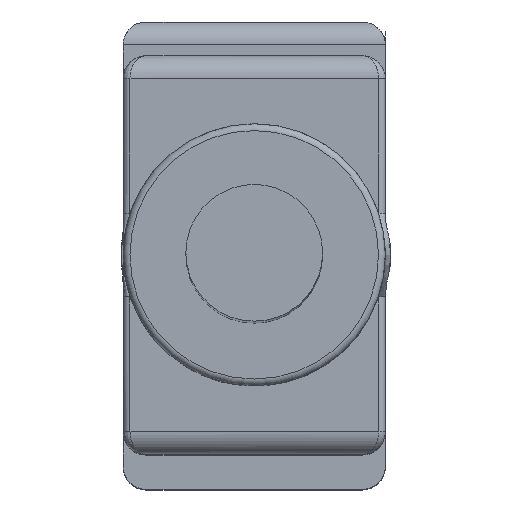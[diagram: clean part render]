
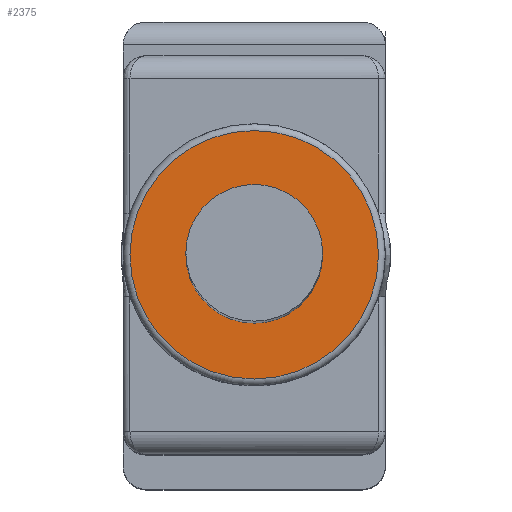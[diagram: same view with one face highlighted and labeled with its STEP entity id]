
A CAD part, top view. The second image highlights one B-rep face of the part: STEP entity #2375.
In plain terms, the highlighted planar face has unit normal (0, 0, 1).
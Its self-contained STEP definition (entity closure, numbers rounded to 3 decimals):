
#2189 = VERTEX_POINT('',#2190);
#2190 = CARTESIAN_POINT('',(5.45,0.,39.2));
#2199 = EDGE_CURVE('',#2189,#2189,#2200,.T.);
#2200 = CIRCLE('',#2201,5.45);
#2201 = AXIS2_PLACEMENT_3D('',#2202,#2203,#2204);
#2202 = CARTESIAN_POINT('',(0.,0.,39.2));
#2203 = DIRECTION('',(0.,0.,1.));
#2204 = DIRECTION('',(1.,0.,0.));
#2375 = ADVANCED_FACE('',(#2376,#2379),#2390,.T.);
#2376 = FACE_BOUND('',#2377,.T.);
#2377 = EDGE_LOOP('',(#2378));
#2378 = ORIENTED_EDGE('',*,*,#2199,.T.);
#2379 = FACE_BOUND('',#2380,.T.);
#2380 = EDGE_LOOP('',(#2381));
#2381 = ORIENTED_EDGE('',*,*,#2382,.F.);
#2382 = EDGE_CURVE('',#2383,#2383,#2385,.T.);
#2383 = VERTEX_POINT('',#2384);
#2384 = CARTESIAN_POINT('',(3.,0.,39.2));
#2385 = CIRCLE('',#2386,3.);
#2386 = AXIS2_PLACEMENT_3D('',#2387,#2388,#2389);
#2387 = CARTESIAN_POINT('',(0.,0.,39.2));
#2388 = DIRECTION('',(0.,0.,1.));
#2389 = DIRECTION('',(1.,0.,0.));
#2390 = PLANE('',#2391);
#2391 = AXIS2_PLACEMENT_3D('',#2392,#2393,#2394);
#2392 = CARTESIAN_POINT('',(0.,0.,39.2));
#2393 = DIRECTION('',(0.,0.,1.));
#2394 = DIRECTION('',(1.,0.,0.));
